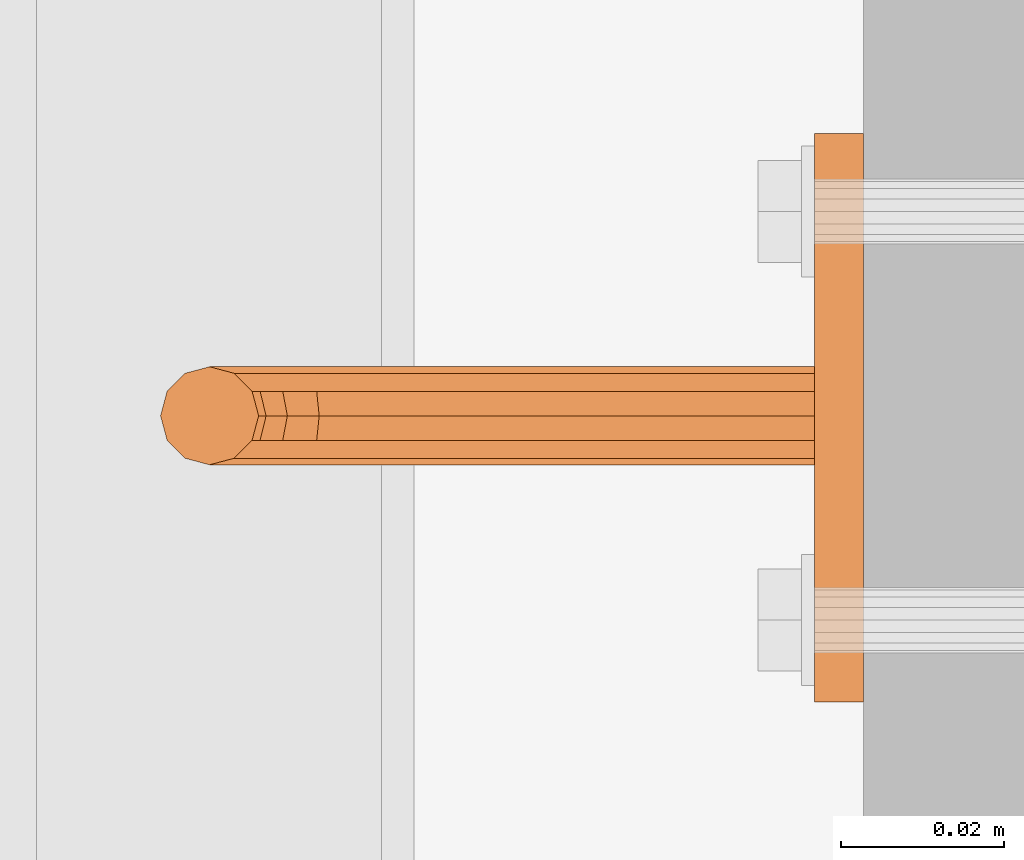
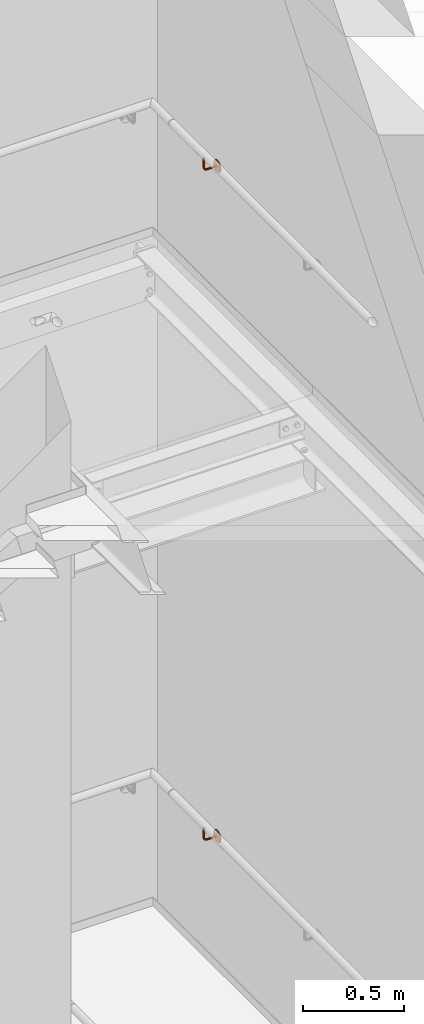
# One storey, part 395 of 410: 2 proxies.
"""IFC2X3 building model written with IfcOpenShell, lengths in millimetres."""

from ifc_helpers import new_model, entity, si_unit, converted_unit, origin_with_axes, place, context, project, spatial, faceted_brep, element, save


model = new_model("IFC2X3")

# Units and contexts
model_context = context("Model", 3, precision=1e-09, world=origin_with_axes())
ifc_project = project(units=[si_unit("LENGTHUNIT", "METRE", prefix="MILLI"), si_unit("AREAUNIT", "SQUARE_METRE"), si_unit("VOLUMEUNIT", "CUBIC_METRE"), converted_unit("PLANEANGLEUNIT", "DEGREE", entity("IfcPlaneAngleMeasure", 0.01745329), si_unit("PLANEANGLEUNIT", "RADIAN"), dimensions=[0, 0, 0, 0, 0, 0, 0])], contexts=[model_context])

# Site, building, storey
site_placement = place(None, origin_with_axes())
site = spatial("IfcSite", under=ifc_project, at=site_placement, Name="mKR Teilneubau & Sanierung BA1 - Ostfildern", CompositionType="ELEMENT")
building_placement = place(site_placement, origin_with_axes())
building = spatial("IfcBuilding", under=site, at=building_placement, Name="Struktur 1", CompositionType="ELEMENT")
storey_placement = place(building_placement, origin_with_axes())
storey = spatial("IfcBuildingStorey", under=building, at=storey_placement, Name="Default Storey", CompositionType="ELEMENT", Elevation=0.0)

# Proxies
proxy_1_placement = place(None, origin_with_axes())
element("IfcBuildingElementProxy", 1, at=proxy_1_placement, inside=storey, ObjectType="-", context=model_context, shape_type="Brep", body=[
    faceted_brep([(3289.999216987, 18051.680638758, -1410.875), (3283.999216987, 18051.680638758, -1410.875), (3283.999216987, 18052.250030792, -1413.0), (3289.999216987, 18052.250030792, -1413.0), (3283.999216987, 18003.856845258, -1383.699173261), (3283.999216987, 18014.408038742, -1379.070990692), (3283.999216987, 18025.890307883, -1378.119542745), (3283.999216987, 18037.059370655, -1380.947933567), (3283.999216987, 18046.704885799, -1387.249663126), (3283.999216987, 18053.781612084, -1396.341841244), (3283.999216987, 18057.522676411, -1407.23918934), (3283.999216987, 18057.522676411, -1418.76081066), (3283.999216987, 18053.781612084, -1429.658158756), (3283.999216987, 18046.704885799, -1438.750336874), (3283.999216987, 18037.059370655, -1445.052066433), (3283.999216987, 18025.890307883, -1447.880457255), (3283.999216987, 18014.408038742, -1446.929009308), (3283.999216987, 18003.856845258, -1442.300826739), (3283.999216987, 17995.380112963, -1434.497444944), (3283.999216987, 17989.896427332, -1424.364481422), (3283.999216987, 17988.000030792, -1413.0), (3283.999216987, 17989.896427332, -1401.635518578), (3283.999216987, 17995.380112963, -1391.502555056), (3283.999216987, 18050.125030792, -1409.319392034), (3283.999216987, 18048.000030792, -1408.75), (3283.999216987, 18045.875030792, -1409.319392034), (3283.999216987, 18044.319422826, -1410.875), (3283.999216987, 18043.750030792, -1413.0), (3283.999216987, 18044.319422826, -1415.125), (3283.999216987, 18045.875030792, -1416.680607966), (3283.999216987, 18048.000030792, -1417.25), (3283.999216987, 18050.125030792, -1416.680607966), (3283.999216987, 18051.680638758, -1415.125), (3283.999216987, 18001.680638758, -1410.875), (3283.999216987, 18000.125030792, -1409.319392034), (3283.999216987, 17998.000030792, -1408.75), (3283.999216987, 17995.875030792, -1409.319392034), (3283.999216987, 17994.319422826, -1410.875), (3283.999216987, 17993.750030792, -1413.0), (3283.999216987, 17994.319422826, -1415.125), (3283.999216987, 17995.875030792, -1416.680607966), (3283.999216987, 17998.000030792, -1417.25), (3283.999216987, 18000.125030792, -1416.680607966), (3283.999216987, 18001.680638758, -1415.125), (3283.999216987, 18002.250030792, -1413.0), (3289.999216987, 18050.125030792, -1409.319392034), (3289.999216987, 18003.856845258, -1442.300826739), (3289.999216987, 18014.408038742, -1446.929009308), (3289.999216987, 18025.890307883, -1447.880457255), (3289.999216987, 18037.059370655, -1445.052066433), (3289.999216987, 18046.704885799, -1438.750336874), (3289.999216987, 18053.781612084, -1429.658158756), (3289.999216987, 18057.522676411, -1418.76081066), (3289.999216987, 18057.522676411, -1407.23918934), (3289.999216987, 18053.781612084, -1396.341841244), (3289.999216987, 18046.704885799, -1387.249663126), (3289.999216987, 18037.059370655, -1380.947933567), (3289.999216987, 18025.890307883, -1378.119542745), (3289.999216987, 18014.408038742, -1379.070990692), (3289.999216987, 18003.856845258, -1383.699173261), (3289.999216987, 17995.380112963, -1391.502555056), (3289.999216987, 17989.896427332, -1401.635518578), (3289.999216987, 17988.000030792, -1413.0), (3289.999216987, 17989.896427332, -1424.364481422), (3289.999216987, 17995.380112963, -1434.497444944), (3289.999216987, 18051.680638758, -1415.125), (3289.999216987, 18050.125030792, -1416.680607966), (3289.999216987, 18048.000030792, -1417.25), (3289.999216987, 18045.875030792, -1416.680607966), (3289.999216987, 18044.319422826, -1415.125), (3289.999216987, 18043.750030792, -1413.0), (3289.999216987, 18044.319422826, -1410.875), (3289.999216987, 18045.875030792, -1409.319392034), (3289.999216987, 18048.000030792, -1408.75), (3289.999216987, 18001.680638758, -1415.125), (3289.999216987, 18000.125030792, -1416.680607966), (3289.999216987, 17998.000030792, -1417.25), (3289.999216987, 17995.875030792, -1416.680607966), (3289.999216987, 17994.319422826, -1415.125), (3289.999216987, 17993.750030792, -1413.0), (3289.999216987, 17994.319422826, -1410.875), (3289.999216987, 17995.875030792, -1409.319392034), (3289.999216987, 17998.000030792, -1408.75), (3289.999216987, 18000.125030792, -1409.319392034), (3289.999216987, 18001.680638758, -1410.875), (3289.999216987, 18002.250030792, -1413.0)], [[[0, 1, 2, 3]], [[4, 5, 6, 7, 8, 9, 10, 11, 12, 13, 14, 15, 16, 17, 18, 19, 20, 21, 22], [2, 1, 23, 24, 25, 26, 27, 28, 29, 30, 31, 32], [33, 34, 35, 36, 37, 38, 39, 40, 41, 42, 43, 44]], [[1, 0, 45, 23]], [[46, 47, 48, 49, 50, 51, 52, 53, 54, 55, 56, 57, 58, 59, 60, 61, 62, 63, 64], [0, 3, 65, 66, 67, 68, 69, 70, 71, 72, 73, 45], [74, 75, 76, 77, 78, 79, 80, 81, 82, 83, 84, 85]], [[3, 2, 32, 65]], [[10, 53, 52, 11]], [[65, 32, 31, 66]], [[23, 45, 73, 24]], [[53, 10, 9, 54]], [[66, 31, 30, 67]], [[11, 52, 51, 12]], [[24, 73, 72, 25]], [[8, 55, 54, 9]], [[67, 30, 29, 68]], [[55, 8, 7, 56]], [[50, 13, 12, 51]], [[25, 72, 71, 26]], [[13, 50, 49, 14]], [[68, 29, 28, 69]], [[26, 71, 70, 27]], [[56, 7, 6, 57]], [[69, 28, 27, 70]], [[14, 49, 48, 15]], [[57, 6, 5, 58]], [[44, 85, 84, 33]], [[15, 48, 47, 16]], [[85, 44, 43, 74]], [[33, 84, 83, 34]], [[58, 5, 4, 59]], [[16, 47, 46, 17]], [[74, 43, 42, 75]], [[34, 83, 82, 35]], [[59, 4, 22, 60]], [[17, 46, 64, 18]], [[75, 42, 41, 76]], [[35, 82, 81, 36]], [[60, 22, 21, 61]], [[18, 64, 63, 19]], [[76, 41, 40, 77]], [[20, 62, 61, 21]], [[36, 81, 80, 37]], [[62, 20, 19, 63]], [[77, 40, 39, 78]], [[37, 80, 79, 38]], [[78, 39, 38, 79]]]),
    faceted_brep([(3227.999216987, 18017.000030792, -1413.0), (3283.999216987, 18017.000030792, -1413.0), (3283.999216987, 18017.803878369, -1410.0), (3227.999216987, 18017.803878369, -1410.0), (3206.999216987, 18017.803878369, -1395.0), (3206.999216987, 18017.803878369, -1338.0), (3204.803064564, 18020.000030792, -1338.0), (3204.803064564, 18020.000030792, -1395.0), (3209.999216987, 18017.000030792, -1395.0), (3209.999216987, 18017.000030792, -1338.0), (3206.56876653, 18020.000030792, -1403.876783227), (3208.597746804, 18017.803878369, -1403.03635208), (3283.999216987, 18026.000030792, -1418.196152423), (3283.999216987, 18028.196183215, -1416.0), (3283.999216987, 18029.000030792, -1413.0), (3283.999216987, 18028.196183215, -1410.0), (3283.999216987, 18026.000030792, -1407.803847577), (3283.999216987, 18023.000030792, -1407.0), (3283.999216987, 18020.000030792, -1407.803847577), (3283.999216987, 18017.803878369, -1416.0), (3283.999216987, 18020.000030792, -1418.196152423), (3283.999216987, 18023.000030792, -1419.0), (3227.999216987, 18017.803878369, -1416.0), (3222.258965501, 18017.803878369, -1408.858192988), (3221.110915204, 18017.000030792, -1411.629831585), (3215.195369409, 18026.000030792, -1338.0), (3212.999216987, 18028.196183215, -1338.0), (3209.999216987, 18029.000030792, -1338.0), (3206.999216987, 18028.196183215, -1338.0), (3204.803064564, 18026.000030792, -1338.0), (3203.999216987, 18023.000030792, -1338.0), (3212.999216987, 18017.803878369, -1338.0), (3215.195369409, 18020.000030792, -1338.0), (3215.999216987, 18023.000030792, -1338.0), (3211.369385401, 18017.000030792, -1401.888301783), (3213.149974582, 18017.803878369, -1409.849242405), (3215.271294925, 18017.000030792, -1407.727922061), (3227.999216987, 18020.000030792, -1407.803847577), (3219.962864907, 18017.803878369, -1414.401470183), (3203.999216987, 18023.000030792, -1395.0), (3212.999216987, 18017.803878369, -1395.0), (3205.826108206, 18023.000030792, -1404.184402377), (3211.597060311, 18020.000030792, -1411.402156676), (3217.392615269, 18017.803878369, -1405.606601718), (3223.099396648, 18020.000030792, -1406.829212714), (3227.999216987, 18020.000030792, -1418.196152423), (3214.141023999, 18017.803878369, -1400.740251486), (3227.999216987, 18023.000030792, -1407.0), (3219.12243376, 18020.000030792, -1416.430450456), (3204.803064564, 18026.000030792, -1395.0), (3215.195369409, 18020.000030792, -1395.0), (3206.56876653, 18026.000030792, -1403.876783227), (3211.028654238, 18023.000030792, -1411.970562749), (3218.945529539, 18020.000030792, -1404.053687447), (3223.407015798, 18023.000030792, -1406.08655439), (3227.999216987, 18023.000030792, -1419.0), (3216.170004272, 18020.000030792, -1399.899820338), (3206.999216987, 18028.196183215, -1395.0), (3227.999216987, 18026.000030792, -1407.803847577), (3218.81481461, 18023.000030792, -1417.17310878), (3215.999216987, 18023.000030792, -1395.0), (3208.597746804, 18028.196183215, -1403.03635208), (3211.597060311, 18026.000030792, -1411.402156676), (3219.513935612, 18023.000030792, -1403.485281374), (3223.099396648, 18026.000030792, -1406.829212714), (3227.999216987, 18026.000030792, -1418.196152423), (3216.912662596, 18023.000030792, -1399.592201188), (3209.999216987, 18029.000030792, -1395.0), (3227.999216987, 18028.196183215, -1410.0), (3219.12243376, 18026.000030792, -1416.430450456), (3215.195369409, 18026.000030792, -1395.0), (3212.999216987, 18028.196183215, -1395.0), (3211.369385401, 18029.000030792, -1401.888301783), (3213.149974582, 18028.196183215, -1409.849242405), (3218.945529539, 18026.000030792, -1404.053687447), (3222.258965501, 18028.196183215, -1408.858192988), (3227.999216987, 18029.000030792, -1413.0), (3227.999216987, 18028.196183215, -1416.0), (3216.170004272, 18026.000030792, -1399.899820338), (3219.962864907, 18028.196183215, -1414.401470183), (3214.141023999, 18028.196183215, -1400.740251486), (3215.271294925, 18029.000030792, -1407.727922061), (3221.110915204, 18029.000030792, -1411.629831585), (3217.392615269, 18028.196183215, -1405.606601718)], [[[0, 1, 2, 3]], [[4, 5, 6, 7]], [[5, 4, 8, 9]], [[4, 7, 10, 11]], [[12, 13, 14, 15, 16, 17, 18, 2, 1, 19, 20, 21]], [[1, 0, 22, 19]], [[0, 3, 23, 24]], [[25, 26, 27, 28, 29, 30, 6, 5, 9, 31, 32, 33]], [[11, 34, 8, 4]], [[35, 36, 34, 11]], [[3, 2, 18, 37]], [[24, 38, 22, 0]], [[36, 35, 38, 24]], [[7, 6, 30, 39]], [[9, 8, 40, 31]], [[7, 39, 41, 10]], [[11, 10, 42, 35]], [[24, 23, 43, 36]], [[3, 37, 44, 23]], [[19, 22, 45, 20]], [[36, 43, 46, 34]], [[34, 46, 40, 8]], [[37, 18, 17, 47]], [[38, 48, 45, 22]], [[35, 42, 48, 38]], [[39, 30, 29, 49]], [[31, 40, 50, 32]], [[39, 49, 51, 41]], [[10, 41, 52, 42]], [[23, 44, 53, 43]], [[37, 47, 54, 44]], [[20, 45, 55, 21]], [[43, 53, 56, 46]], [[46, 56, 50, 40]], [[49, 29, 28, 57]], [[47, 17, 16, 58]], [[48, 59, 55, 45]], [[42, 52, 59, 48]], [[32, 50, 60, 33]], [[49, 57, 61, 51]], [[41, 51, 62, 52]], [[44, 54, 63, 53]], [[47, 58, 64, 54]], [[21, 55, 65, 12]], [[56, 66, 60, 50]], [[53, 63, 66, 56]], [[57, 28, 27, 67]], [[58, 16, 15, 68]], [[59, 69, 65, 55]], [[52, 62, 69, 59]], [[33, 60, 70, 25]], [[26, 71, 67, 27]], [[25, 70, 71, 26]], [[57, 67, 72, 61]], [[51, 61, 73, 62]], [[54, 64, 74, 63]], [[58, 68, 75, 64]], [[14, 76, 68, 15]], [[13, 77, 76, 14]], [[12, 65, 77, 13]], [[66, 78, 70, 60]], [[63, 74, 78, 66]], [[69, 79, 77, 65]], [[62, 73, 79, 69]], [[67, 71, 80, 72]], [[71, 70, 78, 80]], [[61, 72, 81, 73]], [[68, 76, 82, 75]], [[64, 75, 83, 74]], [[76, 77, 79, 82]], [[74, 83, 80, 78]], [[73, 81, 82, 79]], [[72, 80, 83, 81]], [[75, 82, 81, 83]]]),
])
proxy_2_placement = place(None, origin_with_axes())
element("IfcBuildingElementProxy", 2, at=proxy_2_placement, inside=storey, ObjectType="-", context=model_context, shape_type="Brep", body=[
    faceted_brep([(3289.999216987, 18051.680638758, 2647.7684785), (3283.999216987, 18051.680638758, 2647.7684785), (3283.999216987, 18052.250030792, 2645.6434785), (3289.999216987, 18052.250030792, 2645.6434785), (3283.999216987, 18003.856845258, 2674.944305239), (3283.999216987, 18014.408038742, 2679.572487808), (3283.999216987, 18025.890307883, 2680.523935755), (3283.999216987, 18037.059370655, 2677.695544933), (3283.999216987, 18046.704885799, 2671.393815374), (3283.999216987, 18053.781612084, 2662.301637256), (3283.999216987, 18057.522676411, 2651.40428916), (3283.999216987, 18057.522676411, 2639.88266784), (3283.999216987, 18053.781612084, 2628.985319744), (3283.999216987, 18046.704885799, 2619.893141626), (3283.999216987, 18037.059370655, 2613.591412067), (3283.999216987, 18025.890307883, 2610.763021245), (3283.999216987, 18014.408038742, 2611.714469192), (3283.999216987, 18003.856845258, 2616.342651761), (3283.999216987, 17995.380112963, 2624.146033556), (3283.999216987, 17989.896427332, 2634.278997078), (3283.999216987, 17988.000030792, 2645.6434785), (3283.999216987, 17989.896427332, 2657.007959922), (3283.999216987, 17995.380112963, 2667.140923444), (3283.999216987, 18050.125030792, 2649.324086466), (3283.999216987, 18048.000030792, 2649.8934785), (3283.999216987, 18045.875030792, 2649.324086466), (3283.999216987, 18044.319422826, 2647.7684785), (3283.999216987, 18043.750030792, 2645.6434785), (3283.999216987, 18044.319422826, 2643.5184785), (3283.999216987, 18045.875030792, 2641.962870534), (3283.999216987, 18048.000030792, 2641.3934785), (3283.999216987, 18050.125030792, 2641.962870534), (3283.999216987, 18051.680638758, 2643.5184785), (3283.999216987, 18001.680638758, 2647.7684785), (3283.999216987, 18000.125030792, 2649.324086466), (3283.999216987, 17998.000030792, 2649.8934785), (3283.999216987, 17995.875030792, 2649.324086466), (3283.999216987, 17994.319422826, 2647.7684785), (3283.999216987, 17993.750030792, 2645.6434785), (3283.999216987, 17994.319422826, 2643.5184785), (3283.999216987, 17995.875030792, 2641.962870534), (3283.999216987, 17998.000030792, 2641.3934785), (3283.999216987, 18000.125030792, 2641.962870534), (3283.999216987, 18001.680638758, 2643.5184785), (3283.999216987, 18002.250030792, 2645.6434785), (3289.999216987, 18050.125030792, 2649.324086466), (3289.999216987, 18003.856845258, 2616.342651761), (3289.999216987, 18014.408038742, 2611.714469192), (3289.999216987, 18025.890307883, 2610.763021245), (3289.999216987, 18037.059370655, 2613.591412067), (3289.999216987, 18046.704885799, 2619.893141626), (3289.999216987, 18053.781612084, 2628.985319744), (3289.999216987, 18057.522676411, 2639.88266784), (3289.999216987, 18057.522676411, 2651.40428916), (3289.999216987, 18053.781612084, 2662.301637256), (3289.999216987, 18046.704885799, 2671.393815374), (3289.999216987, 18037.059370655, 2677.695544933), (3289.999216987, 18025.890307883, 2680.523935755), (3289.999216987, 18014.408038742, 2679.572487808), (3289.999216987, 18003.856845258, 2674.944305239), (3289.999216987, 17995.380112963, 2667.140923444), (3289.999216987, 17989.896427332, 2657.007959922), (3289.999216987, 17988.000030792, 2645.6434785), (3289.999216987, 17989.896427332, 2634.278997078), (3289.999216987, 17995.380112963, 2624.146033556), (3289.999216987, 18051.680638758, 2643.5184785), (3289.999216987, 18050.125030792, 2641.962870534), (3289.999216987, 18048.000030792, 2641.3934785), (3289.999216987, 18045.875030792, 2641.962870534), (3289.999216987, 18044.319422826, 2643.5184785), (3289.999216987, 18043.750030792, 2645.6434785), (3289.999216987, 18044.319422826, 2647.7684785), (3289.999216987, 18045.875030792, 2649.324086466), (3289.999216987, 18048.000030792, 2649.8934785), (3289.999216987, 18001.680638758, 2643.5184785), (3289.999216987, 18000.125030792, 2641.962870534), (3289.999216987, 17998.000030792, 2641.3934785), (3289.999216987, 17995.875030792, 2641.962870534), (3289.999216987, 17994.319422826, 2643.5184785), (3289.999216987, 17993.750030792, 2645.6434785), (3289.999216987, 17994.319422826, 2647.7684785), (3289.999216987, 17995.875030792, 2649.324086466), (3289.999216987, 17998.000030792, 2649.8934785), (3289.999216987, 18000.125030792, 2649.324086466), (3289.999216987, 18001.680638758, 2647.7684785), (3289.999216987, 18002.250030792, 2645.6434785)], [[[0, 1, 2, 3]], [[4, 5, 6, 7, 8, 9, 10, 11, 12, 13, 14, 15, 16, 17, 18, 19, 20, 21, 22], [2, 1, 23, 24, 25, 26, 27, 28, 29, 30, 31, 32], [33, 34, 35, 36, 37, 38, 39, 40, 41, 42, 43, 44]], [[1, 0, 45, 23]], [[46, 47, 48, 49, 50, 51, 52, 53, 54, 55, 56, 57, 58, 59, 60, 61, 62, 63, 64], [0, 3, 65, 66, 67, 68, 69, 70, 71, 72, 73, 45], [74, 75, 76, 77, 78, 79, 80, 81, 82, 83, 84, 85]], [[3, 2, 32, 65]], [[10, 53, 52, 11]], [[65, 32, 31, 66]], [[23, 45, 73, 24]], [[53, 10, 9, 54]], [[66, 31, 30, 67]], [[11, 52, 51, 12]], [[24, 73, 72, 25]], [[8, 55, 54, 9]], [[67, 30, 29, 68]], [[55, 8, 7, 56]], [[50, 13, 12, 51]], [[25, 72, 71, 26]], [[13, 50, 49, 14]], [[68, 29, 28, 69]], [[26, 71, 70, 27]], [[56, 7, 6, 57]], [[69, 28, 27, 70]], [[14, 49, 48, 15]], [[57, 6, 5, 58]], [[44, 85, 84, 33]], [[15, 48, 47, 16]], [[85, 44, 43, 74]], [[33, 84, 83, 34]], [[58, 5, 4, 59]], [[16, 47, 46, 17]], [[74, 43, 42, 75]], [[34, 83, 82, 35]], [[59, 4, 22, 60]], [[17, 46, 64, 18]], [[75, 42, 41, 76]], [[35, 82, 81, 36]], [[60, 22, 21, 61]], [[18, 64, 63, 19]], [[76, 41, 40, 77]], [[20, 62, 61, 21]], [[36, 81, 80, 37]], [[62, 20, 19, 63]], [[77, 40, 39, 78]], [[37, 80, 79, 38]], [[78, 39, 38, 79]]]),
    faceted_brep([(3227.999216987, 18017.000030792, 2645.6434785), (3283.999216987, 18017.000030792, 2645.6434785), (3283.999216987, 18017.803878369, 2648.6434785), (3227.999216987, 18017.803878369, 2648.6434785), (3206.999216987, 18017.803878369, 2663.6434785), (3206.999216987, 18017.803878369, 2720.6434785), (3204.803064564, 18020.000030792, 2720.6434785), (3204.803064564, 18020.000030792, 2663.6434785), (3209.999216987, 18017.000030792, 2663.6434785), (3209.999216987, 18017.000030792, 2720.6434785), (3206.56876653, 18020.000030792, 2654.766695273), (3208.597746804, 18017.803878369, 2655.60712642), (3283.999216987, 18026.000030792, 2640.447326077), (3283.999216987, 18028.196183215, 2642.6434785), (3283.999216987, 18029.000030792, 2645.6434785), (3283.999216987, 18028.196183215, 2648.6434785), (3283.999216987, 18026.000030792, 2650.839630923), (3283.999216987, 18023.000030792, 2651.6434785), (3283.999216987, 18020.000030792, 2650.839630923), (3283.999216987, 18017.803878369, 2642.6434785), (3283.999216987, 18020.000030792, 2640.447326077), (3283.999216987, 18023.000030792, 2639.6434785), (3227.999216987, 18017.803878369, 2642.6434785), (3222.258965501, 18017.803878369, 2649.785285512), (3221.110915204, 18017.000030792, 2647.013646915), (3215.195369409, 18026.000030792, 2720.6434785), (3212.999216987, 18028.196183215, 2720.6434785), (3209.999216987, 18029.000030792, 2720.6434785), (3206.999216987, 18028.196183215, 2720.6434785), (3204.803064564, 18026.000030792, 2720.6434785), (3203.999216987, 18023.000030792, 2720.6434785), (3212.999216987, 18017.803878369, 2720.6434785), (3215.195369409, 18020.000030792, 2720.6434785), (3215.999216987, 18023.000030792, 2720.6434785), (3211.369385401, 18017.000030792, 2656.755176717), (3213.149974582, 18017.803878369, 2648.794236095), (3215.271294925, 18017.000030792, 2650.915556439), (3227.999216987, 18020.000030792, 2650.839630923), (3219.962864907, 18017.803878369, 2644.242008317), (3203.999216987, 18023.000030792, 2663.6434785), (3212.999216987, 18017.803878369, 2663.6434785), (3205.826108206, 18023.000030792, 2654.459076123), (3211.597060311, 18020.000030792, 2647.241321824), (3217.392615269, 18017.803878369, 2653.036876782), (3223.099396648, 18020.000030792, 2651.814265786), (3227.999216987, 18020.000030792, 2640.447326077), (3214.141023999, 18017.803878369, 2657.903227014), (3227.999216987, 18023.000030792, 2651.6434785), (3219.12243376, 18020.000030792, 2642.213028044), (3204.803064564, 18026.000030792, 2663.6434785), (3215.195369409, 18020.000030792, 2663.6434785), (3206.56876653, 18026.000030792, 2654.766695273), (3211.028654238, 18023.000030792, 2646.672915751), (3218.945529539, 18020.000030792, 2654.589791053), (3223.407015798, 18023.000030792, 2652.55692411), (3227.999216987, 18023.000030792, 2639.6434785), (3216.170004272, 18020.000030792, 2658.743658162), (3206.999216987, 18028.196183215, 2663.6434785), (3227.999216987, 18026.000030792, 2650.839630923), (3218.81481461, 18023.000030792, 2641.47036972), (3215.999216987, 18023.000030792, 2663.6434785), (3208.597746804, 18028.196183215, 2655.60712642), (3211.597060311, 18026.000030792, 2647.241321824), (3219.513935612, 18023.000030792, 2655.158197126), (3223.099396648, 18026.000030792, 2651.814265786), (3227.999216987, 18026.000030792, 2640.447326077), (3216.912662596, 18023.000030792, 2659.051277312), (3209.999216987, 18029.000030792, 2663.6434785), (3227.999216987, 18028.196183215, 2648.6434785), (3219.12243376, 18026.000030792, 2642.213028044), (3215.195369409, 18026.000030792, 2663.6434785), (3212.999216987, 18028.196183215, 2663.6434785), (3211.369385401, 18029.000030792, 2656.755176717), (3213.149974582, 18028.196183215, 2648.794236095), (3218.945529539, 18026.000030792, 2654.589791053), (3222.258965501, 18028.196183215, 2649.785285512), (3227.999216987, 18029.000030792, 2645.6434785), (3227.999216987, 18028.196183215, 2642.6434785), (3216.170004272, 18026.000030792, 2658.743658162), (3219.962864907, 18028.196183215, 2644.242008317), (3214.141023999, 18028.196183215, 2657.903227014), (3215.271294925, 18029.000030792, 2650.915556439), (3221.110915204, 18029.000030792, 2647.013646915), (3217.392615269, 18028.196183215, 2653.036876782)], [[[0, 1, 2, 3]], [[4, 5, 6, 7]], [[5, 4, 8, 9]], [[4, 7, 10, 11]], [[12, 13, 14, 15, 16, 17, 18, 2, 1, 19, 20, 21]], [[1, 0, 22, 19]], [[0, 3, 23, 24]], [[25, 26, 27, 28, 29, 30, 6, 5, 9, 31, 32, 33]], [[11, 34, 8, 4]], [[35, 36, 34, 11]], [[3, 2, 18, 37]], [[24, 38, 22, 0]], [[36, 35, 38, 24]], [[7, 6, 30, 39]], [[9, 8, 40, 31]], [[7, 39, 41, 10]], [[11, 10, 42, 35]], [[24, 23, 43, 36]], [[3, 37, 44, 23]], [[19, 22, 45, 20]], [[36, 43, 46, 34]], [[34, 46, 40, 8]], [[37, 18, 17, 47]], [[38, 48, 45, 22]], [[35, 42, 48, 38]], [[39, 30, 29, 49]], [[31, 40, 50, 32]], [[39, 49, 51, 41]], [[10, 41, 52, 42]], [[23, 44, 53, 43]], [[37, 47, 54, 44]], [[20, 45, 55, 21]], [[43, 53, 56, 46]], [[46, 56, 50, 40]], [[49, 29, 28, 57]], [[47, 17, 16, 58]], [[48, 59, 55, 45]], [[42, 52, 59, 48]], [[32, 50, 60, 33]], [[49, 57, 61, 51]], [[41, 51, 62, 52]], [[44, 54, 63, 53]], [[47, 58, 64, 54]], [[21, 55, 65, 12]], [[56, 66, 60, 50]], [[53, 63, 66, 56]], [[57, 28, 27, 67]], [[58, 16, 15, 68]], [[59, 69, 65, 55]], [[52, 62, 69, 59]], [[33, 60, 70, 25]], [[26, 71, 67, 27]], [[25, 70, 71, 26]], [[57, 67, 72, 61]], [[51, 61, 73, 62]], [[54, 64, 74, 63]], [[58, 68, 75, 64]], [[14, 76, 68, 15]], [[13, 77, 76, 14]], [[12, 65, 77, 13]], [[66, 78, 70, 60]], [[63, 74, 78, 66]], [[69, 79, 77, 65]], [[62, 73, 79, 69]], [[67, 71, 80, 72]], [[71, 70, 78, 80]], [[61, 72, 81, 73]], [[68, 76, 82, 75]], [[64, 75, 83, 74]], [[76, 77, 79, 82]], [[74, 83, 80, 78]], [[73, 81, 82, 79]], [[72, 80, 83, 81]], [[75, 82, 81, 83]]]),
])

save(model, "model.ifc")
